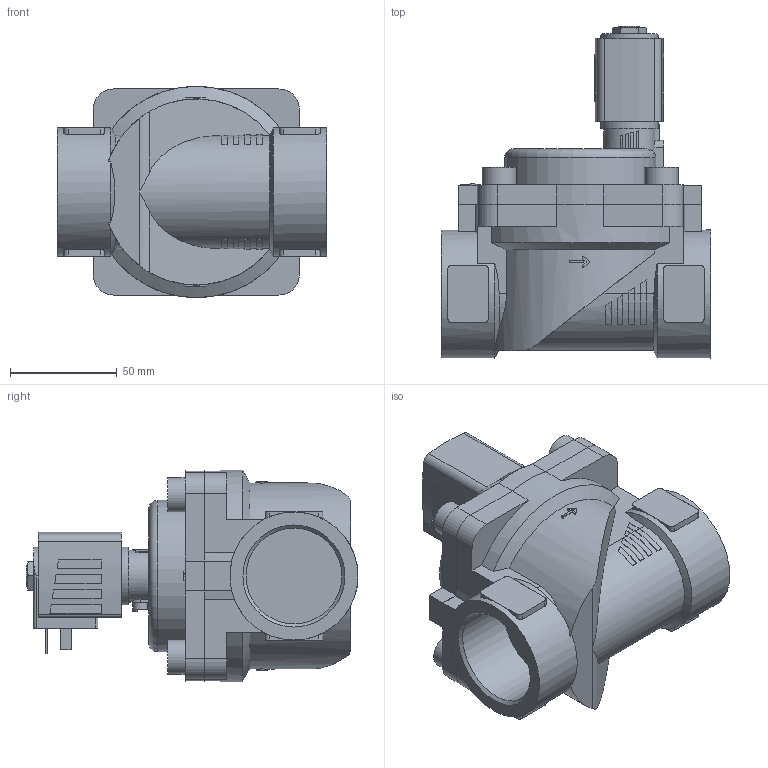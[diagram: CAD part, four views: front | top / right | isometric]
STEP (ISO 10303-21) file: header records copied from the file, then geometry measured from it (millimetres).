
FILE_DESCRIPTION(/* description */ ('STEP AP214'),/* implementation_level */ '2;1');
FILE_NAME(/* name */ '6281-308689-2_2-Way_Solenoid_Valve__Servo-assisted__General_Purpose',/* time_stamp */ '2024-09-02T23:10:29+02:00',/* author */ ('License CC BY-ND 4.0'),/* organization */ ('CADENAS'),/* preprocessor_version */ 'ST-DEVELOPER v19.3',/* originating_system */ 'PARTsolutions',/* authorisation */ ' ');
FILE_SCHEMA (('AUTOMOTIVE_DESIGN {1 0 10303 214 3 1 1}'));
Length unit declared in the file: millimetre
Products named in the file (4): 6281-308689-2/2-Way Solenoid Valve, Servo-assisted, General Purpose; 5281ev401MS2/2-Wege-Magnetventil mit Servomembran-Deckel 99 ; 6213-40G1_1/2MS-Gehaeuse-; AC10ex-5NA38-Plan-Coil
Assembly tree (3 placements, depth 2):
  6281-308689-2/2-Way Solenoid Valve, Servo-assisted, General Purpose
    5281ev401MS2/2-Wege-Magnetventil mit Servomembran-Deckel 99 
    6213-40G1_1/2MS-Gehaeuse-
    AC10ex-5NA38-Plan-Coil
Bounding box: 126 x 155.5 x 99 mm (x, y, z)
Volume: 670840.9 mm3; surface area: 93220.5 mm2
Topology: 3 solids, 3 shells, 364 faces, 951 edges, 629 vertices
Faces by surface type: plane 249, cylinder 99, cone 15, torus 1
Full cylindrical faces by diameter (mm): 2.013 x1, 6.8 x1, 9.74 x1, 16 x4, 27 x1, 44.845 x2, 60 x2
Entity records: 12573 total; most frequent: CARTESIAN_POINT 2202, ORIENTED_EDGE 1852, DIRECTION 1852, EDGE_CURVE 926, AXIS2_PLACEMENT_3D 632, VERTEX_POINT 620, LINE 588, VECTOR 588
